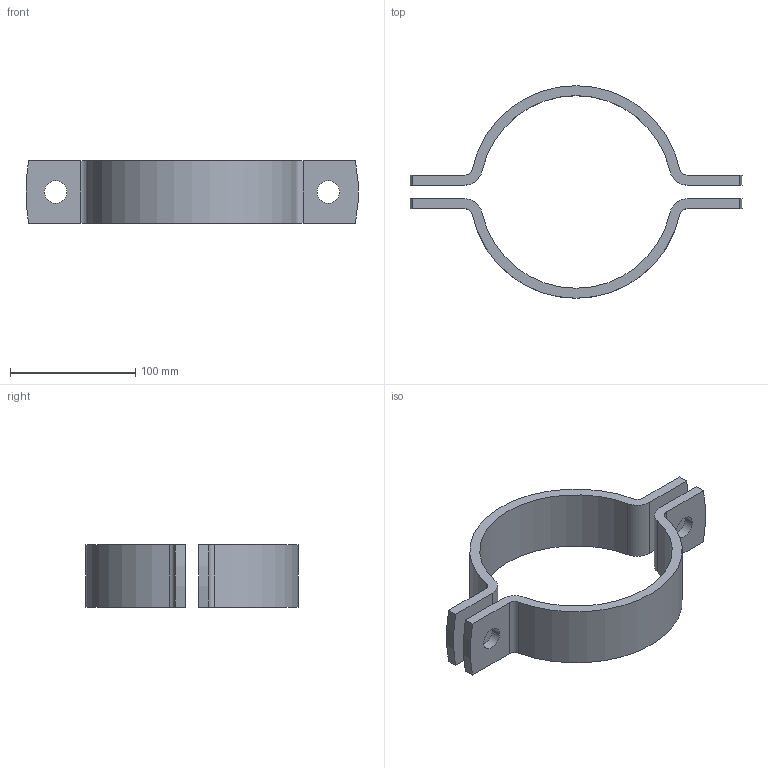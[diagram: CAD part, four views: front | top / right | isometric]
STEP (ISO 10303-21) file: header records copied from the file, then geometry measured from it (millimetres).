
FILE_DESCRIPTION (( 'STEP AP203' ), '1' );
FILE_NAME ('NW150-154 (DIN 3567).STEP', '2023-12-08T11:34:00', ( '' ), ( '' ), 'SwSTEP 2.0', 'SolidWorks 2023', '' );
FILE_SCHEMA (( 'CONFIG_CONTROL_DESIGN' ));
Length unit declared in the file: millimetre
Products named in the file (1): NW150-154 (DIN 3567)
Bounding box: 265.47 x 170 x 50 mm (x, y, z)
Volume: 258443.4 mm3; surface area: 78592.1 mm2
Topology: 2 solids, 2 shells, 36 faces, 96 edges, 64 vertices
Faces by surface type: cylinder 24, plane 12
Entity records: 1239 total; most frequent: DIRECTION 218, CARTESIAN_POINT 197, ORIENTED_EDGE 192, EDGE_CURVE 96, AXIS2_PLACEMENT_3D 85, VERTEX_POINT 64, VECTOR 48, CIRCLE 48
